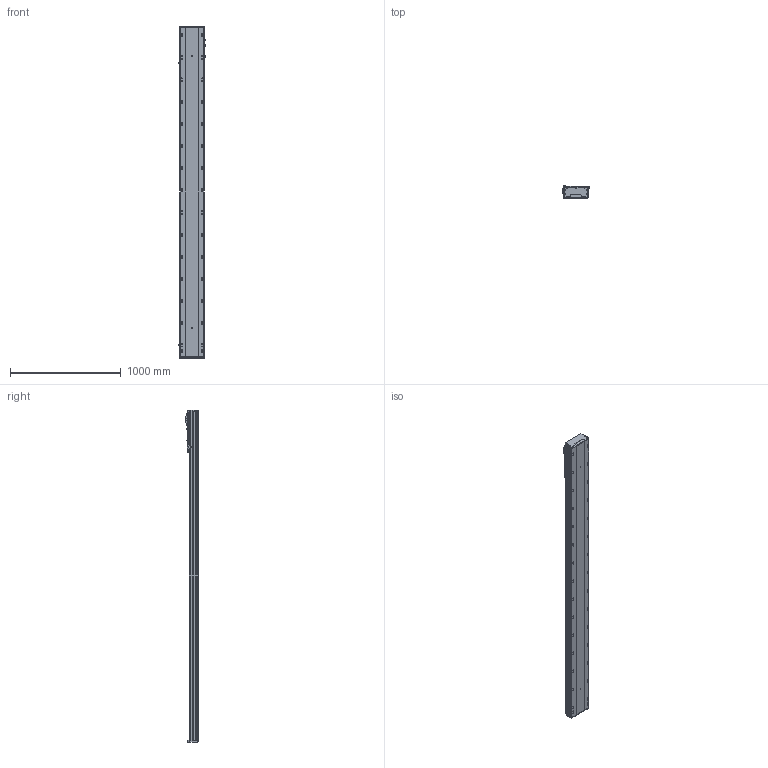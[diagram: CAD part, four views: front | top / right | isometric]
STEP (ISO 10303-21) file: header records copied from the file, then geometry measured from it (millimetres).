
FILE_DESCRIPTION (( 'STEP AP203' ), '1' );
FILE_NAME ('BEH22-A-M2-2550-L1-¦Õ22-PCD100-M6-C3.STEP', '2022-06-21T05:59:50', ( 'CXY' ), ( 'BT' ), 'SwSTEP 2.0', 'SolidWorks 2016', '' );
FILE_SCHEMA (( 'CONFIG_CONTROL_DESIGN' ));
Products named in the file (12): _G-M6; BEH22-A-M2-2550-L1-耳22-PCD100-M6-C3; BEH22-B-01-XX-2; BEH22-04-01_L; 萇儂階踡輸; FS-02-BTH22; BEH22-04-F; FS-25-6.66-M2-H22K6; BTH22-07-DZ; FS-01-10（10毫米）; PM-T65; BEH22-07-PCD100-80-M6
Assembly tree (18 placements, depth 3):
  BEH22-A-M2-2550-L1-耳22-PCD100-M6-C3
    BEH22-B-01-XX-2
    BTH22-07-DZ  x2
    PM-T65  x2
    BEH22-04-01_L
      BEH22-04-F
      萇儂階踡輸
      _G-M6  x3
      FS-02-BTH22
      FS-01-10（10毫米）  x4
      BEH22-07-PCD100-80-M6
      FS-25-6.66-M2-H22K6
Bounding box: 247.7 x 111 x 2998 mm (x, y, z)
Volume: 31406230 mm3; surface area: 3098736.1 mm2
Topology: 21 solids, 21 shells, 2328 faces, 6772 edges, 4394 vertices
Faces by surface type: cylinder 1168, plane 868, cone 233, bspline 37, torus 22
Entity records: 465292 total; most frequent: CARTESIAN_POINT 413567, ORIENTED_EDGE 11364, DIRECTION 9678, EDGE_CURVE 5682, VERTEX_POINT 3754, AXIS2_PLACEMENT_3D 3532, VECTOR 2614, LINE 2614
